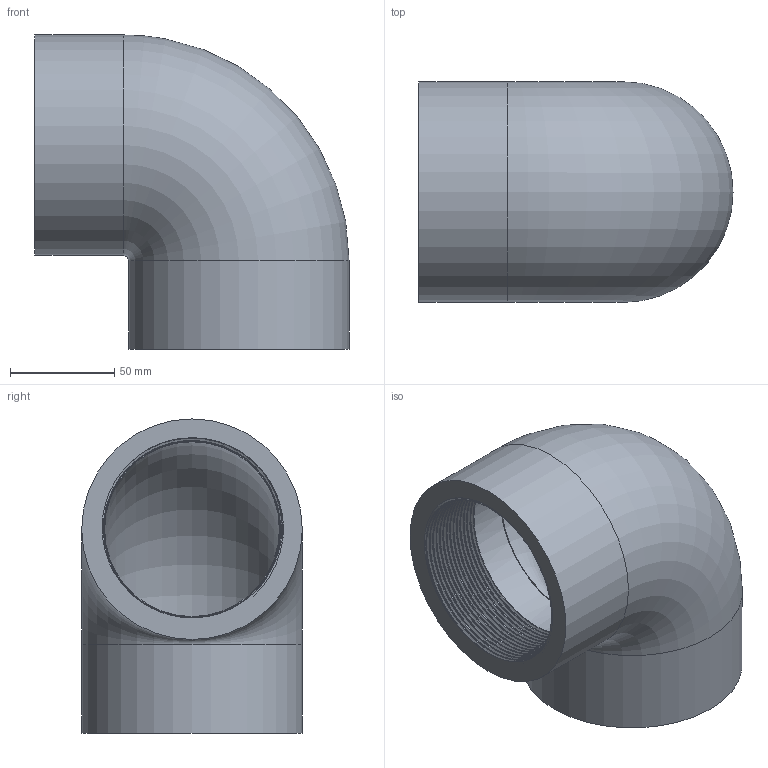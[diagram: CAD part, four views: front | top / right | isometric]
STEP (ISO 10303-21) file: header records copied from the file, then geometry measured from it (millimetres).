
FILE_DESCRIPTION(/* description */ ('PVC gomito a 90° incollaggio- filettato BSP femmina'),/* implementation_level */ '2;1');
FILE_NAME(/* name */ 'C:\Users\POLYPIPE\Desktop\DATASET INVENTOR\LIBRERIA EFFAST\RACCORDI 3DxWEB\RGR\3D_RGRGOG\3D_RGRGOG090I.stp',/* time_stamp */ '2018-01-19T17:42:21+01:00',/* author */ ('POLYPIPE'),/* organization */ ('Polypipe Italia s.r.l.'),/* preprocessor_version */ 'ST-DEVELOPER v16.1',/* originating_system */ 'Autodesk Inventor 2016',/* authorisation */ '');
FILE_SCHEMA (('CONFIG_CONTROL_DESIGN'));
Length unit declared in the file: millimetre
Products named in the file (1): 3D_RGRGOG
Bounding box: 151 x 106 x 151 mm (x, y, z)
Volume: 490592.2 mm3; surface area: 117510.9 mm2
Topology: 1 solids, 1 shells, 16 faces, 33 edges, 21 vertices
Faces by surface type: bspline 5, plane 5, cylinder 4, torus 2
Full cylindrical faces by diameter (mm): 84.926 x1, 90 x1, 106 x2
Entity records: 5607 total; most frequent: CARTESIAN_POINT 5293, ORIENTED_EDGE 52, DIRECTION 51, EDGE_LOOP 26, EDGE_CURVE 26, AXIS2_PLACEMENT_3D 24, VERTEX_POINT 20, FACE_OUTER_BOUND 16
